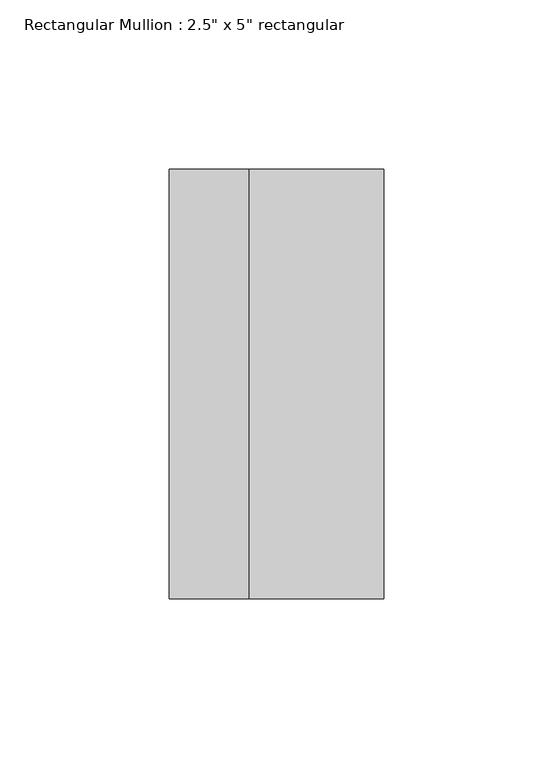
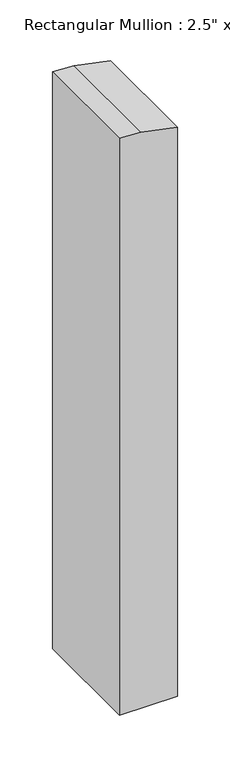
"""IFC4 building model written with IfcOpenShell, lengths in millimetres: member geometry."""

from ifc_helpers import new_model, si_unit, frame, origin, place, context, project, spatial, polyline, outline, extrude, source, transform, mapped, element, save


def member_955cf6cd(model_context):
    return source(origin(), model_context, "Body", "SweptSolid", [
        extrude(outline(polyline([(-70.9956703, 31.75), (-63.1336193, -8.0649752), (-61.7308659, -31.75), (-730.3323019, -31.75), (-730.3323019, 31.75), (-70.9956703, 31.75)])), frame((0.0, -63.5, 0.0), z_axis=(0.0, 1.0, 0.0), x_axis=(0.0, 0.0, 1.0)), (0.0, 0.0, 1.0), 127.0),
    ])


if __name__ == "__main__":
    model = new_model("IFC4")
    model_context = context("Model", 3, world=origin())
    ifc_project = project(units=[si_unit("LENGTHUNIT", "METRE", prefix="MILLI")], contexts=[model_context])
    site = spatial("IfcSite", under=ifc_project)
    building = spatial("IfcBuilding", under=site)
    placement = place(None, origin())
    member_shape = member_955cf6cd(model_context)
    element("IfcMember", 1, ObjectType="Rectangular Mullion : 2.5\" x 5\" rectangular", at=placement, inside=building, context=model_context, shape_type="MappedRepresentation", body=[
        mapped(member_shape, transform((0.0, 0.0, 0.0), x_axis=(1.0, 0.0, 0.0), y_axis=(0.0, 1.0, 0.0), z_axis=(0.0, 0.0, 1.0))),
    ])
    save(model, "model.ifc")
